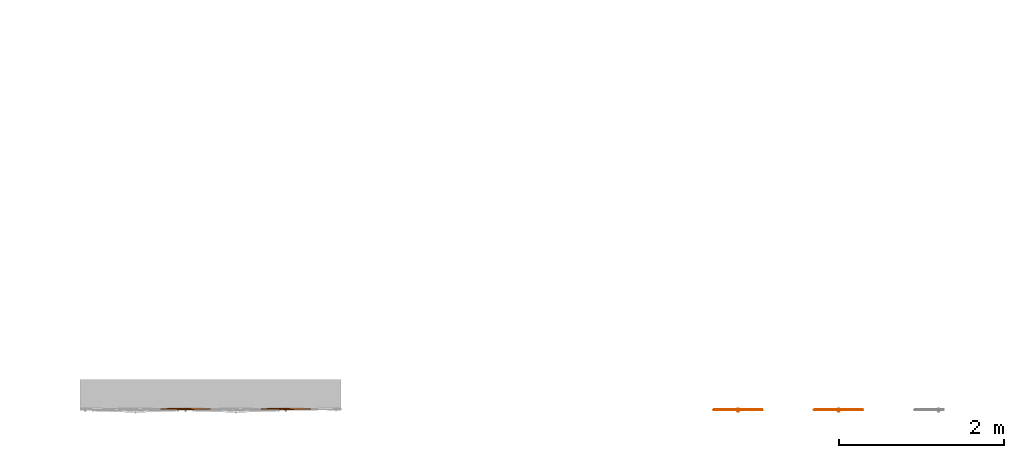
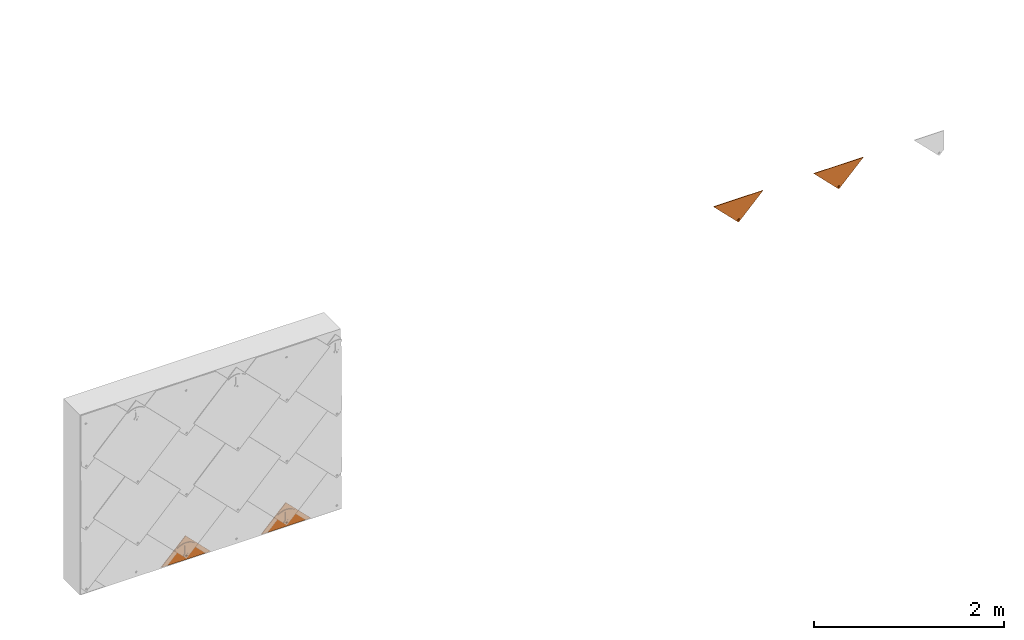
# One storey, part 111 of 151: 4 proxies.
"""IFC2X3 building model written with IfcOpenShell, lengths in millimetres."""

from ifc_helpers import new_model, entity, si_unit, converted_unit, derived_unit, direction, frame, origin, place, context, subcontext, project, spatial, faceted_brep, source, transform, mapped, material, material_list, type_object, type_shapes, element, save


model = new_model("IFC2X3")

# Units and contexts
model_context = context("Model", 3, precision=0.01, world=origin(), true_north=direction((6.12303176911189e-17, 1.0)))
body_context = subcontext(model_context, "Body", "Model", "MODEL_VIEW")
ifc_project = project(units=[si_unit("LENGTHUNIT", "METRE", prefix="MILLI"), si_unit("AREAUNIT", "SQUARE_METRE"), si_unit("VOLUMEUNIT", "CUBIC_METRE"), converted_unit("PLANEANGLEUNIT", "DEGREE", entity("IfcRatioMeasure", 0.0174532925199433), si_unit("PLANEANGLEUNIT", "RADIAN"), dimensions=[0, 0, 0, 0, 0, 0, 0]), si_unit("MASSUNIT", "GRAM", prefix="KILO"), derived_unit("MASSDENSITYUNIT", [(si_unit("MASSUNIT", "GRAM", prefix="KILO"), 1), (si_unit("LENGTHUNIT", "METRE"), -3)]), si_unit("TIMEUNIT", "SECOND"), si_unit("FREQUENCYUNIT", "HERTZ"), si_unit("THERMODYNAMICTEMPERATUREUNIT", "DEGREE_CELSIUS"), derived_unit("THERMALTRANSMITTANCEUNIT", [(si_unit("MASSUNIT", "GRAM", prefix="KILO"), 1), (si_unit("THERMODYNAMICTEMPERATUREUNIT", "KELVIN"), -1), (si_unit("TIMEUNIT", "SECOND"), -3)]), derived_unit("VOLUMETRICFLOWRATEUNIT", [(si_unit("LENGTHUNIT", "METRE"), 3), (si_unit("TIMEUNIT", "SECOND"), -1)]), si_unit("ELECTRICCURRENTUNIT", "AMPERE"), si_unit("ELECTRICVOLTAGEUNIT", "VOLT"), si_unit("POWERUNIT", "WATT"), si_unit("FORCEUNIT", "NEWTON", prefix="KILO"), si_unit("ILLUMINANCEUNIT", "LUX"), si_unit("LUMINOUSFLUXUNIT", "LUMEN"), si_unit("LUMINOUSINTENSITYUNIT", "CANDELA"), derived_unit("USERDEFINED", [(si_unit("MASSUNIT", "GRAM", prefix="KILO"), -1), (si_unit("LENGTHUNIT", "METRE"), -2), (si_unit("TIMEUNIT", "SECOND"), 3), (si_unit("LUMINOUSFLUXUNIT", "LUMEN"), 1)]), derived_unit("LINEARVELOCITYUNIT", [(si_unit("LENGTHUNIT", "METRE"), 1), (si_unit("TIMEUNIT", "SECOND"), -1)]), si_unit("PRESSUREUNIT", "PASCAL"), derived_unit("USERDEFINED", [(si_unit("LENGTHUNIT", "METRE"), -2), (si_unit("MASSUNIT", "GRAM", prefix="KILO"), 1), (si_unit("TIMEUNIT", "SECOND"), -2)])], contexts=[model_context])

# Site, building, storey
site_placement = place(None, origin())
site = spatial("IfcSite", under=ifc_project, at=site_placement, Name="Default", CompositionType="ELEMENT")
building_placement = place(site_placement, origin())
building = spatial("IfcBuilding", under=site, at=building_placement, CompositionType="ELEMENT")
storey_placement = place(building_placement, origin())
storey = spatial("IfcBuildingStorey", under=building, at=storey_placement, Name="Level 1", CompositionType="ELEMENT", Elevation=0.0)

# Proxies
ifc_material_1 = material(Name="Rubber - Sunstyle - Black")
ifc_material_2 = material(Name="Glass - Sunstyle - Tainted Terracotta")
ifc_material_list_1 = material_list([ifc_material_1, ifc_material_2])
ifc_material_list_2 = material_list([ifc_material_1, ifc_material_2])
building_element_proxy_type_1 = type_object("IfcBuildingElementProxyType", Name="Shingle Top Small - Terracotta", PredefinedType="NOTDEFINED", material=ifc_material_list_2)
shared_shape_1 = source(origin(), body_context, "Body", "Brep", [
    faceted_brep([(300.675008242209, 41.77298489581, 1.59527223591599), (294.900805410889, 38.4397147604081, 1.65109621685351), (294.900805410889, 38.8080238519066, 23.6429655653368), (300.675008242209, 42.1412939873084, 23.5871415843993), (294.900805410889, 31.7731744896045, 1.76274417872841), (294.900805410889, 32.1414835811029, 23.7546135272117), (300.675008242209, 28.4399043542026, 1.81856815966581), (300.675008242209, 28.808213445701, 23.8104375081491), (306.44921107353, 31.7731744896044, 1.7627441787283), (306.44921107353, 32.1414835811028, 23.7546135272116), (306.44921107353, 38.4397147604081, 1.65109621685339), (306.44921107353, 38.8080238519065, 23.6429655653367), (292.071304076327, 26.8722558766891, 23.8428599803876), (300.675008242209, 23.3089846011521, 23.9025359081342), (288.507533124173, 35.4747537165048, 23.6987895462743), (292.071304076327, 44.0772515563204, 23.5547191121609), (300.675008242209, 47.6405228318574, 23.4950431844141), (309.278712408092, 44.0772515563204, 23.5547191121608), (312.842483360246, 35.4747537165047, 23.6987895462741), (309.278712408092, 26.872255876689, 23.8428599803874), (289.350763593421, 37.7698308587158, 26.0116314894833), (290.91853368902, 35.5457686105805, 27.9391141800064), (300.67500824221, 42.8588438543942, 28.5718145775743), (300.67500824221, 44.0993414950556, 27.9914679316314), (300.675008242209, 46.2568923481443, 26.98209285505), (300.675008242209, 23.8650286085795, 25.1775938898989), (300.675008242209, 24.8086052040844, 27.3412982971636), (300.675008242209, 28.2579809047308, 28.8163427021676), (300.675008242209, 47.1274867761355, 24.7880055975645), (294.35176254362, 31.9081966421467, 28.7552106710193), (294.35176254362, 39.2086281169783, 28.6329466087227), (311.999252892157, 33.2584106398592, 26.0871865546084), (310.523888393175, 34.4713621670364, 27.8602460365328), (306.998253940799, 39.2086281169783, 28.6329466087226), (306.998253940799, 31.9081966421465, 28.7552106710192), (294.35176254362, 32.0422251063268, 36.7580988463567), (300.67500824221, 28.3920093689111, 36.8192308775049), (300.67500824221, 35.6924408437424, 36.6969668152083), (294.35176254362, 39.342656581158, 36.6358347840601), (306.998253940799, 32.0422251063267, 36.7580988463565), (306.998253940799, 39.342656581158, 36.6358347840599), (300.67500824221, 42.9928723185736, 36.5747027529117), (300.675008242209, 35.1064446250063, 1.7069201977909)], [[[0, 1, 2, 3]], [[1, 4, 5, 2]], [[4, 6, 7, 5]], [[6, 8, 9, 7]], [[8, 10, 11, 9]], [[10, 0, 3, 11]], [[12, 7, 13]], [[7, 12, 5]], [[14, 5, 12]], [[5, 14, 2]], [[15, 2, 14]], [[3, 2, 15]], [[15, 16, 3]], [[16, 17, 3]], [[11, 3, 17]], [[11, 17, 18]], [[9, 11, 18]], [[18, 19, 9]], [[7, 9, 19]], [[19, 13, 7]], [[20, 14, 12]], [[21, 22, 23, 24]], [[24, 20, 21]], [[25, 20, 12]], [[26, 27, 21]], [[15, 14, 20]], [[12, 13, 25]], [[20, 28, 15]], [[28, 20, 24]], [[21, 27, 29]], [[21, 29, 30]], [[26, 21, 20]], [[20, 25, 26]], [[15, 28, 16]], [[21, 30, 22]], [[31, 18, 17]], [[28, 31, 17]], [[32, 27, 26]], [[26, 31, 32]], [[26, 25, 31]], [[25, 19, 31]], [[17, 16, 28]], [[31, 19, 18]], [[24, 31, 28]], [[33, 34, 32]], [[23, 22, 33]], [[24, 32, 31]], [[27, 32, 34]], [[32, 23, 33]], [[19, 25, 13]], [[32, 24, 23]], [[35, 36, 37]], [[37, 38, 35]], [[36, 39, 37]], [[40, 37, 39]], [[37, 40, 41]], [[37, 41, 38]], [[42, 6, 4]], [[4, 1, 42]], [[1, 0, 42]], [[42, 8, 6]], [[0, 10, 42]], [[8, 42, 10]], [[22, 30, 38, 41]], [[30, 29, 35, 38]], [[29, 27, 36, 35]], [[27, 34, 39, 36]], [[34, 33, 40, 39]], [[33, 22, 41, 40]]]),
    faceted_brep([(601.350661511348, 300.716609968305, 19.1616152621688), (307.603211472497, 39.4797476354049, 23.5366826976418), (308.402414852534, 37.5505705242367, 23.5689916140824), (306.331862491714, 41.1363695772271, 23.5089384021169), (308.675008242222, 35.4803084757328, 23.6036633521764), (304.675008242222, 42.4075403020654, 23.4876494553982), (302.745560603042, 43.206631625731, 23.4742666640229), (300.675008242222, 43.4791867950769, 23.4697020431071), (308.402414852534, 33.4100464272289, 23.6383350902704), (300.675330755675, 0.125588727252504, 24.1957669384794), (0.0, 300.716609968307, 19.1616152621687), (298.604455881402, 43.2066316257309, 23.4742666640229), (296.675008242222, 42.4075403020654, 23.4876494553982), (295.018153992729, 41.136369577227, 23.5089384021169), (293.746805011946, 39.4797476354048, 23.5366826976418), (292.947601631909, 37.5505705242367, 23.5689916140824), (292.675008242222, 35.4803084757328, 23.6036633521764), (292.947601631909, 33.4100464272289, 23.6383350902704), (293.746805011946, 31.4808693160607, 23.6706440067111), (307.603211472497, 31.4808693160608, 23.6706440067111), (306.331862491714, 29.8242473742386, 23.698388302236), (304.675008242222, 28.5530766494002, 23.7196772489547), (302.745560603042, 27.7539853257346, 23.73306004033), (300.675008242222, 27.4814301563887, 23.7376246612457), (298.604455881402, 27.7539853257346, 23.73306004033), (296.675008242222, 28.5530766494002, 23.7196772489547), (295.018153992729, 29.8242473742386, 23.698388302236), (0.0, 300.591021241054, 11.6626668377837), (295.018153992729, 41.0107808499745, 16.0099899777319), (293.746805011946, 39.3541589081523, 16.0377342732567), (296.675008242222, 42.2819515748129, 15.9887010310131), (292.947601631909, 37.4249817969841, 16.0700431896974), (298.604455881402, 43.0810428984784, 15.9753182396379), (300.675008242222, 43.3535980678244, 15.9707536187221), (601.350661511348, 300.591021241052, 11.6626668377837), (292.675008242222, 35.3547197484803, 16.1047149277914), (292.947601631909, 33.2844576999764, 16.1393866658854), (300.675330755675, 0.0, 16.6968185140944), (302.745560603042, 43.0810428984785, 15.9753182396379), (304.675008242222, 42.2819515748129, 15.9887010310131), (306.331862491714, 41.0107808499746, 16.0099899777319), (307.603211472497, 39.3541589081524, 16.0377342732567), (308.402414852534, 37.4249817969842, 16.0700431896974), (308.675008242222, 35.3547197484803, 16.1047149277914), (308.402414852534, 33.2844576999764, 16.1393866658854), (307.603211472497, 31.3552805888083, 16.171695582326), (293.746805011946, 31.3552805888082, 16.171695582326), (295.018153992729, 29.6986586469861, 16.1994398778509), (296.675008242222, 28.4274879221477, 16.2207288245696), (298.604455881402, 27.6283965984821, 16.2341116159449), (300.675008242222, 27.3558414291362, 16.2386762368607), (302.745560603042, 27.6283965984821, 16.2341116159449), (304.675008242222, 28.4274879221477, 16.2207288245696), (306.331862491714, 29.6986586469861, 16.1994398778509)], [[[0, 1, 2]], [[1, 0, 3]], [[0, 2, 4]], [[5, 3, 0]], [[6, 5, 0]], [[0, 7, 6]], [[4, 8, 0]], [[8, 9, 0]], [[7, 0, 10]], [[11, 7, 10]], [[12, 11, 10]], [[10, 13, 12]], [[13, 10, 14]], [[15, 14, 10]], [[10, 16, 15]], [[17, 16, 10]], [[10, 9, 17]], [[17, 9, 18]], [[8, 19, 9]], [[20, 9, 19]], [[20, 21, 9]], [[22, 9, 21]], [[23, 9, 22]], [[23, 24, 9]], [[24, 25, 9]], [[25, 26, 9]], [[9, 26, 18]], [[27, 28, 29]], [[28, 27, 30]], [[27, 29, 31]], [[32, 30, 27]], [[33, 32, 27]], [[27, 34, 33]], [[31, 35, 27]], [[35, 36, 27]], [[27, 36, 37]], [[38, 33, 34]], [[39, 38, 34]], [[40, 39, 34]], [[34, 41, 40]], [[41, 34, 42]], [[43, 42, 34]], [[34, 44, 43]], [[37, 44, 34]], [[45, 44, 37]], [[37, 36, 46]], [[37, 46, 47]], [[47, 48, 37]], [[48, 49, 37]], [[50, 37, 49]], [[50, 51, 37]], [[37, 51, 52]], [[52, 53, 37]], [[45, 37, 53]], [[9, 10, 27, 37]], [[0, 9, 37, 34]], [[16, 35, 31, 15]], [[15, 31, 29, 14]], [[12, 13, 28, 30]], [[28, 13, 14, 29]], [[11, 12, 30, 32]], [[11, 32, 33, 7]], [[7, 33, 38, 6]], [[6, 38, 39, 5]], [[1, 3, 40, 41]], [[40, 3, 5, 39]], [[2, 1, 41, 42]], [[2, 42, 43, 4]], [[4, 43, 44, 8]], [[8, 44, 45, 19]], [[21, 20, 53, 52]], [[53, 20, 19, 45]], [[22, 21, 52, 51]], [[22, 51, 50, 23]], [[23, 50, 49, 24]], [[24, 49, 48, 25]], [[18, 26, 47, 46]], [[47, 26, 25, 48]], [[17, 18, 46, 36]], [[17, 36, 35, 16]], [[10, 0, 34, 27]]]),
])
type_shapes(building_element_proxy_type_1, [shared_shape_1])
proxy_1_placement = place(storey_placement, frame((-6698.11889757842, -13194.2847487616, 2233.96885150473), z_axis=(0.0, -1.0, 0.0), x_axis=(1.0, 0.0, 0.0)))
element("IfcBuildingElementProxy", 1, at=proxy_1_placement, inside=storey, type_object=building_element_proxy_type_1, material=ifc_material_list_1, Name="Roofing_Panels_SunStyle_Tile_Shingle-Top-Small:Shingle Top Small - Terracotta", ObjectType="Roofing_Panels_SunStyle_Tile_Shingle-Top-Small:Shingle Top Small - Terracotta", context=body_context, shape_type="MappedRepresentation", body=[
    mapped(shared_shape_1, transform((0.0, 0.0, 0.0), scale=1.0)),
])
ifc_material_list_3 = material_list([ifc_material_1, ifc_material_2])
proxy_2_placement = place(storey_placement, frame((-5481.68539869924, -13194.2847487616, 2233.96885150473), z_axis=(0.0, -1.0, 0.0), x_axis=(1.0, 0.0, 0.0)))
element("IfcBuildingElementProxy", 2, at=proxy_2_placement, inside=storey, type_object=building_element_proxy_type_1, material=ifc_material_list_3, Name="Roofing_Panels_SunStyle_Tile_Shingle-Top-Small:Shingle Top Small - Terracotta", ObjectType="Roofing_Panels_SunStyle_Tile_Shingle-Top-Small:Shingle Top Small - Terracotta", context=body_context, shape_type="MappedRepresentation", body=[
    mapped(shared_shape_1, transform((0.0, 0.0, 0.0), scale=1.0)),
])
ifc_material_list_4 = material_list([ifc_material_1, ifc_material_2])
ifc_material_list_5 = material_list([ifc_material_1, ifc_material_2])
building_element_proxy_type_2 = type_object("IfcBuildingElementProxyType", Name="Shingle Bottom Small - Terracotta", PredefinedType="NOTDEFINED", material=ifc_material_list_5)
shared_shape_2 = source(origin(), body_context, "Body", "Brep", [
    faceted_brep([(302.08842791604, 44.9093317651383, 22.0558382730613), (302.08842791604, 49.408700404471, 21.980485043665), (293.484723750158, 48.4726030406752, 21.9961623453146), (310.692132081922, 48.4726030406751, 21.9961623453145), (308.728656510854, 53.2419006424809, 21.9162884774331), (314.255903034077, 57.0751008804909, 21.8520919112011), (308.728656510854, 60.9083011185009, 21.7878953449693), (310.692132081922, 65.6775987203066, 21.7080214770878), (302.08842791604, 64.7415013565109, 21.7236987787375), (302.08842791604, 69.2408699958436, 21.6483455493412), (293.484723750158, 65.6775987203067, 21.708021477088), (295.448199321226, 60.908301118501, 21.7878953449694), (289.920952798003, 57.0751008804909, 21.8520919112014), (295.448199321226, 53.2419006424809, 21.9162884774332), (295.448199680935, 60.6403782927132, 5.79013870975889), (302.08842791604, 64.473578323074, 5.72594214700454), (295.448199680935, 52.9739782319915, 5.91853183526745), (302.08842791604, 49.1407782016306, 5.98272839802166), (308.728656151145, 52.9739782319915, 5.91853183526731), (308.728656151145, 60.6403782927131, 5.79013870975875), (293.484723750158, 48.2046804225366, 5.99840570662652), (302.08842791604, 44.6414091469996, 6.05808163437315), (289.920952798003, 56.8071782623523, 5.85433527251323), (293.484723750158, 65.4096761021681, 5.71026483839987), (302.08842791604, 68.972947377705, 5.65058891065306), (310.692132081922, 65.409676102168, 5.71026483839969), (314.255903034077, 56.8071782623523, 5.85433527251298), (310.692132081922, 48.2046804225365, 5.99840570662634)], [[[0, 1, 2]], [[1, 0, 3]], [[3, 4, 1]], [[4, 3, 5]], [[6, 4, 5]], [[5, 7, 6]], [[7, 8, 6]], [[8, 7, 9]], [[8, 9, 10]], [[10, 11, 8]], [[12, 11, 10]], [[2, 13, 12]], [[12, 13, 11]], [[13, 2, 1]], [[8, 11, 14, 15]], [[11, 13, 16, 14]], [[13, 1, 17, 16]], [[1, 4, 18, 17]], [[4, 6, 19, 18]], [[6, 8, 15, 19]], [[20, 17, 21]], [[17, 20, 16]], [[22, 16, 20]], [[14, 16, 22]], [[23, 14, 22]], [[15, 14, 23]], [[23, 24, 15]], [[24, 25, 15]], [[19, 15, 25]], [[19, 25, 26]], [[26, 18, 19]], [[26, 27, 18]], [[17, 18, 27]], [[27, 21, 17]], [[24, 23, 10, 9]], [[10, 23, 22, 12]], [[20, 21, 0, 2]], [[20, 2, 12, 22]], [[21, 27, 3, 0]], [[3, 27, 26, 5]], [[25, 24, 9, 7]], [[25, 7, 5, 26]]]),
    faceted_brep([(587.35835892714, 0.0, 12.5593198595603), (595.843045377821, 8.4846864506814, 12.4172224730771), (595.843045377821, 8.50980419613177, 13.9170121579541), (587.35835892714, 0.0251177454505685, 14.0591095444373), (302.088750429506, 285.189618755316, 7.7831033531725), (16.8191419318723, 0.0, 12.5593198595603), (8.33445548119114, 8.48468645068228, 12.4172224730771), (302.088750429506, 302.156612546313, 7.49894842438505), (302.088750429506, 302.181730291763, 8.9987381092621), (8.33445548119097, 8.50980419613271, 13.9170121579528), (16.8191419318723, 0.0251177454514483, 14.0591095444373), (302.088750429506, 285.214736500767, 9.28289303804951)], [[[0, 1, 2, 3]], [[1, 0, 4, 5, 6, 7]], [[2, 1, 7, 8]], [[3, 2, 8, 9, 10, 11]], [[0, 3, 11, 4]], [[5, 10, 9, 6]], [[8, 7, 6, 9]], [[4, 11, 10, 5]]]),
    faceted_brep([(302.088750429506, 302.156612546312, 7.49894842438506), (305.194256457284, 68.3255429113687, 11.4150370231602), (308.088427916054, 67.1269059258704, 11.4351112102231), (302.088427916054, 68.7343756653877, 11.4081900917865), (310.573709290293, 65.2201498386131, 11.4670446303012), (298.982599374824, 68.3255429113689, 11.4150370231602), (296.088427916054, 67.1269059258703, 11.4351112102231), (293.603146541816, 65.2201498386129, 11.4670446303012), (312.480732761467, 62.7352169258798, 11.5086610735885), (604.177500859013, 0.152567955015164, 12.5567647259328), (291.696123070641, 62.7352169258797, 11.5086610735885), (0.0, 0.152567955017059, 12.5567647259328), (290.497318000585, 59.8414512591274, 11.5571244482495), (290.088427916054, 56.7360581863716, 11.6091320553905), (290.497318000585, 53.6306651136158, 11.6611396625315), (291.696123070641, 50.7368994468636, 11.7096030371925), (293.603146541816, 48.2519665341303, 11.7512194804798), (296.088427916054, 46.3452104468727, 11.7831529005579), (298.982599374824, 45.1465734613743, 11.8032270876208), (302.088427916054, 44.7377407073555, 11.8100740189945), (313.679537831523, 59.8414512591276, 11.5571244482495), (314.088427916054, 56.7360581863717, 11.6091320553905), (313.679537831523, 53.6306651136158, 11.6611396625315), (312.480732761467, 50.7368994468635, 11.7096030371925), (310.573709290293, 48.2519665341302, 11.7512194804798), (308.088427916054, 46.3452104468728, 11.7831529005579), (305.194256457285, 45.1465734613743, 11.8032270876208), (0.0, 0.0269792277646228, 5.0578163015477), (290.088427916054, 56.6104694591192, 4.11018363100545), (290.497318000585, 53.5050763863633, 4.16219123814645), (290.497318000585, 59.7158625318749, 4.05817602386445), (291.696123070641, 50.6113107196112, 4.21065461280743), (291.696123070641, 62.6096281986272, 4.00971264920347), (302.088750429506, 302.031023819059, 0.0), (293.603146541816, 48.1263778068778, 4.25227105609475), (296.088427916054, 46.2196217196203, 4.28420447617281), (298.982599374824, 45.0209847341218, 4.30427866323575), (302.088427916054, 44.612151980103, 4.31112559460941), (604.177500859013, 0.0269792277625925, 5.05781630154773), (293.603146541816, 65.0945611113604, 3.96809620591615), (296.088427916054, 67.0013171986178, 3.93616278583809), (298.982599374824, 68.1999541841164, 3.91608859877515), (302.088427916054, 68.6087869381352, 3.90924166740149), (305.194256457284, 68.1999541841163, 3.91608859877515), (308.088427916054, 67.0013171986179, 3.93616278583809), (310.573709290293, 65.0945611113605, 3.96809620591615), (312.480732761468, 62.6096281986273, 4.00971264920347), (305.194256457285, 45.0209847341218, 4.30427866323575), (308.088427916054, 46.2196217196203, 4.28420447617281), (313.679537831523, 59.7158625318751, 4.05817602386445), (314.088427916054, 56.6104694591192, 4.11018363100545), (313.679537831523, 53.5050763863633, 4.16219123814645), (312.480732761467, 50.611310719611, 4.21065461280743), (310.573709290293, 48.1263778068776, 4.25227105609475)], [[[0, 1, 2]], [[1, 0, 3]], [[0, 2, 4]], [[5, 3, 0]], [[6, 5, 0]], [[0, 7, 6]], [[8, 0, 4]], [[0, 8, 9]], [[7, 0, 10]], [[0, 11, 10]], [[12, 10, 11]], [[11, 13, 12]], [[13, 11, 14]], [[15, 14, 11]], [[11, 16, 15]], [[17, 16, 11]], [[17, 11, 18]], [[19, 18, 11]], [[19, 11, 9]], [[9, 8, 20]], [[20, 21, 9]], [[21, 22, 9]], [[22, 23, 9]], [[9, 23, 24]], [[24, 25, 9]], [[25, 26, 9]], [[9, 26, 19]], [[27, 28, 29]], [[28, 27, 30]], [[27, 29, 31]], [[32, 30, 27]], [[32, 27, 33]], [[31, 34, 27]], [[34, 35, 27]], [[35, 36, 27]], [[36, 37, 27]], [[27, 37, 38]], [[33, 39, 32]], [[40, 39, 33]], [[41, 40, 33]], [[42, 41, 33]], [[33, 43, 42]], [[43, 33, 44]], [[45, 44, 33]], [[33, 46, 45]], [[46, 33, 38]], [[38, 37, 47]], [[47, 48, 38]], [[49, 46, 38]], [[38, 50, 49]], [[50, 38, 51]], [[52, 51, 38]], [[53, 52, 38]], [[53, 38, 48]], [[11, 0, 33, 27]], [[0, 9, 38, 33]], [[13, 28, 30, 12]], [[12, 30, 32, 10]], [[6, 7, 39, 40]], [[39, 7, 10, 32]], [[5, 6, 40, 41]], [[5, 41, 42, 3]], [[3, 42, 43, 1]], [[1, 43, 44, 2]], [[8, 4, 45, 46]], [[45, 4, 2, 44]], [[20, 8, 46, 49]], [[20, 49, 50, 21]], [[21, 50, 51, 22]], [[22, 51, 52, 23]], [[25, 24, 53, 48]], [[53, 24, 23, 52]], [[26, 25, 48, 47]], [[26, 47, 37, 19]], [[19, 37, 36, 18]], [[18, 36, 35, 17]], [[15, 16, 34, 31]], [[34, 16, 17, 35]], [[14, 15, 31, 29]], [[14, 29, 28, 13]], [[9, 11, 27, 38]]]),
    faceted_brep([(190.819384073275, 138.646056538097, 12.7376939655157), (217.144031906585, 164.967013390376, 12.2968834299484), (200.060856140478, 182.04779392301, 12.0108228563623), (193.80845410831, 176.686146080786, 12.100617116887), (187.837458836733, 171.012871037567, 12.1956303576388), (173.141714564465, 156.321247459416, 12.4416784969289), (431.035141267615, 156.321247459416, 12.4416784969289), (416.339396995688, 171.012871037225, 12.1956303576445), (410.36840172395, 176.686146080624, 12.1006171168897), (404.115999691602, 182.047793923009, 12.0108228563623), (387.031626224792, 164.968210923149, 12.2968633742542), (413.357471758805, 138.646056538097, 12.7376939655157), (296.088427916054, 67.294357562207, 21.4337091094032), (288.788427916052, 83.1076295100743, 21.1688761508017), (283.384321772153, 79.569581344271, 21.2281296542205), (293.603146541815, 65.3876014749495, 21.4656425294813), (298.982599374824, 68.4929945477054, 21.4136349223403), (302.088427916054, 68.9018273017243, 21.4067879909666), (315.388427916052, 83.107629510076, 21.1688761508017), (305.194256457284, 68.4929945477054, 21.4136349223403), (308.088427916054, 67.2943575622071, 21.4337091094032), (320.792534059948, 79.5695813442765, 21.2281296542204), (310.573709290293, 65.3876014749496, 21.4656425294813), (325.293078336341, 74.9365758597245, 21.3057209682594), (312.480732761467, 62.9026685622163, 21.5072589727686), (328.672647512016, 69.4324252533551, 21.3979017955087), (313.679537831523, 60.0089028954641, 21.5557223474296), (330.767980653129, 63.323025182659, 21.500219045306), (314.088427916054, 56.9035098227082, 21.6077299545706), (331.477855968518, 56.9035098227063, 21.6077299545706), (313.679537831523, 53.7981167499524, 21.6597375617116), (312.480732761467, 50.9043510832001, 21.7082009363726), (310.573709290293, 48.4194181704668, 21.7498173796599), (302.08842791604, 27.5182024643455, 22.0998607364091), (308.088427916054, 46.5126620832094, 21.7817507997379), (305.194256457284, 45.314025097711, 21.8018249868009), (302.088427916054, 44.9051923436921, 21.8086719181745), (298.982599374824, 45.314025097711, 21.8018249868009), (296.088427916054, 46.5126620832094, 21.7817507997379), (293.603146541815, 48.4194181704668, 21.7498173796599), (272.69899986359, 56.903509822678, 21.6077299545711), (291.696123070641, 50.9043510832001, 21.7082009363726), (290.497318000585, 53.7981167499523, 21.6597375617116), (290.088427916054, 56.9035098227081, 21.6077299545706), (273.408875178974, 63.3230251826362, 21.5002190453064), (290.497318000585, 60.008902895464, 21.5557223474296), (275.504208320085, 69.4324252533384, 21.397901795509), (291.696123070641, 62.9026685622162, 21.5072589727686), (278.883777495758, 74.9365758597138, 21.3057209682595), (288.788427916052, 192.984512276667, 19.3287117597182), (315.388427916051, 192.984512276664, 19.3287117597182), (302.088427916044, 218.456125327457, 18.9021256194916), (338.579268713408, 214.282159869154, 18.9720291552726), (340.858170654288, 188.169632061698, 19.4093490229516), (373.184513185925, 201.975945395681, 19.1781276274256), (365.012761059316, 178.765998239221, 19.5668364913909), (404.115999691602, 182.173382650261, 19.5097712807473), (387.032823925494, 165.092602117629, 19.7958318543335), (265.59758711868, 214.28215986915, 18.9720291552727), (263.318685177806, 188.169632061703, 19.4093490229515), (230.992342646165, 201.975945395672, 19.1781276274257), (239.164094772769, 178.765998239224, 19.5668364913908), (200.06085614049, 182.173382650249, 19.5097712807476), (217.144031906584, 165.092602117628, 19.7958318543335), (302.08842791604, 27.3507508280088, 12.1012628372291), (302.088427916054, 44.7377407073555, 11.8100740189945), (305.194256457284, 45.1465734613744, 11.8032270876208), (298.982599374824, 45.1465734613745, 11.8032270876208), (308.088427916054, 46.3452104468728, 11.7831529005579), (310.573709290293, 48.2519665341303, 11.7512194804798), (331.477855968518, 56.7360581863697, 11.6091320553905), (296.088427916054, 46.3452104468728, 11.7831529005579), (293.603146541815, 48.2519665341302, 11.7512194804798), (272.69899986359, 56.7360581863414, 11.609132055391), (291.696123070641, 50.7368994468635, 11.7096030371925), (290.497318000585, 53.6306651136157, 11.6611396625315), (290.088427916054, 56.7360581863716, 11.6091320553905), (273.408875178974, 63.1555735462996, 11.5016211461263), (290.497318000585, 59.8414512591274, 11.5571244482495), (275.504208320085, 69.2649736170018, 11.3993038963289), (291.696123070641, 62.7352169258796, 11.5086610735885), (278.883777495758, 74.7691242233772, 11.3071230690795), (293.603146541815, 65.2201498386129, 11.4670446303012), (283.384321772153, 79.4021297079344, 11.2295317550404), (296.088427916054, 67.1269059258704, 11.4351112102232), (288.788427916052, 82.9401778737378, 11.1702782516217), (298.982599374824, 68.3255429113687, 11.4150370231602), (302.088427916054, 68.7343756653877, 11.4081900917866), (315.388427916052, 82.9401778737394, 11.1702782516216), (288.788427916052, 192.81706064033, 9.33011386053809), (315.388427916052, 192.817060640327, 9.33011386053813), (302.088427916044, 218.28867369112, 8.90352772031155), (265.59758711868, 214.114708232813, 8.97343125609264), (263.318685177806, 188.002180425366, 9.41075112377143), (230.992342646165, 201.808493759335, 9.17952972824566), (239.164094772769, 178.598546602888, 9.56823859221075), (200.06085614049, 182.005931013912, 9.51117338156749), (217.145229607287, 164.926348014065, 9.79721389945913), (193.80845410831, 176.644283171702, 9.60096764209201), (187.837458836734, 170.971008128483, 9.69598088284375), (190.819384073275, 138.604193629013, 10.2380444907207), (173.141714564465, 156.279384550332, 9.94202902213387), (338.579268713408, 214.114708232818, 8.97343125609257), (340.858170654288, 188.002180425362, 9.41075112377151), (373.184513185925, 201.808493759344, 9.17952972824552), (365.012761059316, 178.598546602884, 9.5682385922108), (404.115999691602, 182.005931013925, 9.51117338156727), (387.032823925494, 164.925150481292, 9.79723395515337), (410.36840172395, 176.64428317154, 9.60096764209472), (416.339396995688, 170.971008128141, 9.69598088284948), (413.357471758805, 138.604193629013, 10.2380444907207), (431.035141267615, 156.279384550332, 9.94202902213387), (305.194256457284, 68.3255429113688, 11.4150370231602), (308.088427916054, 67.1269059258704, 11.4351112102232), (320.792534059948, 79.4021297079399, 11.2295317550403), (310.573709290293, 65.220149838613, 11.4670446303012), (325.293078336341, 74.7691242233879, 11.3071230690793), (312.480732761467, 62.7352169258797, 11.5086610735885), (328.672647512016, 69.2649736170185, 11.3993038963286), (313.679537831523, 59.8414512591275, 11.5571244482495), (330.767980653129, 63.1555735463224, 11.5016211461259), (314.088427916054, 56.7360581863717, 11.6091320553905), (312.480732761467, 50.7368994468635, 11.7096030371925), (313.679537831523, 53.6306651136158, 11.6611396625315)], [[[0, 1, 2, 3, 4, 5]], [[6, 7, 8, 9, 10, 11]], [[12, 13, 14]], [[12, 14, 15]], [[16, 13, 12]], [[17, 13, 16]], [[18, 13, 17]], [[17, 19, 18]], [[19, 20, 18]], [[20, 21, 18]], [[21, 20, 22]], [[21, 22, 23]], [[24, 23, 22]], [[23, 24, 25]], [[24, 26, 25]], [[27, 25, 26]], [[26, 28, 27]], [[29, 27, 28]], [[28, 30, 29]], [[30, 31, 29]], [[29, 31, 32]], [[32, 33, 29]], [[32, 34, 33]], [[35, 33, 34]], [[36, 33, 35]], [[33, 36, 37]], [[38, 33, 37]], [[38, 39, 33]], [[40, 33, 39]], [[41, 40, 39]], [[41, 42, 40]], [[42, 43, 40]], [[43, 44, 40]], [[45, 44, 43]], [[45, 46, 44]], [[45, 47, 46]], [[48, 46, 47]], [[48, 47, 15]], [[48, 15, 14]], [[18, 49, 13]], [[50, 49, 18]], [[51, 49, 50]], [[50, 52, 51]], [[50, 53, 52]], [[52, 53, 54]], [[53, 55, 54]], [[56, 54, 55]], [[57, 56, 55]], [[58, 49, 51]], [[49, 58, 59]], [[60, 59, 58]], [[60, 61, 59]], [[61, 60, 62]], [[62, 63, 61]], [[64, 65, 66]], [[65, 64, 67]], [[64, 66, 68]], [[68, 69, 64]], [[64, 69, 70]], [[71, 67, 64]], [[71, 64, 72]], [[72, 64, 73]], [[73, 74, 72]], [[74, 73, 75]], [[75, 73, 76]], [[77, 76, 73]], [[76, 77, 78]], [[78, 77, 79]], [[80, 78, 79]], [[81, 80, 79]], [[82, 80, 81]], [[83, 82, 81]], [[83, 84, 82]], [[85, 84, 83]], [[85, 86, 84]], [[87, 86, 85]], [[88, 87, 85]], [[89, 88, 85]], [[88, 89, 90]], [[89, 91, 90]], [[91, 89, 92]], [[93, 92, 89]], [[92, 93, 94]], [[95, 94, 93]], [[96, 94, 95]], [[95, 97, 96]], [[97, 98, 96]], [[98, 97, 99]], [[97, 100, 99]], [[99, 100, 101]], [[90, 91, 102]], [[103, 90, 102]], [[103, 102, 104]], [[105, 103, 104]], [[106, 105, 104]], [[107, 105, 106]], [[106, 108, 107]], [[109, 107, 108]], [[110, 107, 109]], [[109, 111, 110]], [[112, 87, 88]], [[113, 112, 88]], [[114, 113, 88]], [[115, 113, 114]], [[115, 114, 116]], [[116, 117, 115]], [[117, 116, 118]], [[118, 119, 117]], [[120, 119, 118]], [[121, 120, 70]], [[120, 121, 119]], [[70, 69, 122]], [[122, 123, 70]], [[123, 121, 70]], [[13, 49, 89, 85]], [[14, 13, 85, 83]], [[48, 14, 83, 81]], [[81, 79, 46, 48]], [[44, 46, 79, 77]], [[40, 44, 77, 73]], [[33, 40, 73, 64]], [[0, 5, 101, 100]], [[29, 33, 64, 70]], [[6, 11, 110, 111]], [[27, 29, 70, 120]], [[25, 27, 120, 118]], [[118, 116, 23, 25]], [[21, 23, 116, 114]], [[18, 21, 114, 88]], [[50, 18, 88, 90]], [[9, 106, 104, 54, 56]], [[52, 54, 104, 102]], [[51, 52, 102, 91]], [[58, 51, 91, 92]], [[94, 96, 2, 62, 60]], [[60, 58, 92, 94]], [[43, 76, 78, 45]], [[45, 78, 80, 47]], [[12, 15, 82, 84]], [[80, 82, 15, 47]], [[16, 12, 84, 86]], [[87, 17, 16, 86]], [[19, 112, 113, 20]], [[20, 113, 115, 22]], [[26, 24, 117, 119]], [[115, 117, 24, 22]], [[28, 26, 119, 121]], [[19, 17, 87, 112]], [[28, 121, 123, 30]], [[30, 123, 122, 31]], [[34, 32, 69, 68]], [[122, 69, 32, 31]], [[35, 34, 68, 66]], [[65, 36, 35, 66]], [[37, 67, 71, 38]], [[38, 71, 72, 39]], [[42, 41, 74, 75]], [[72, 74, 41, 39]], [[43, 42, 75, 76]], [[37, 36, 65, 67]], [[7, 6, 111, 109]], [[7, 109, 108, 8]], [[108, 106, 9, 8]], [[11, 10, 107, 110]], [[1, 0, 100, 97]], [[2, 96, 98, 3]], [[98, 99, 4, 3]], [[5, 4, 99, 101]], [[63, 62, 2, 1]], [[56, 57, 10]], [[10, 9, 56]], [[1, 95, 61, 63]], [[1, 97, 95]], [[93, 89, 49, 59]], [[95, 93, 59, 61]], [[90, 103, 53, 50]], [[103, 105, 55, 53]], [[10, 57, 55]], [[107, 10, 105]], [[55, 105, 10]]]),
])
type_shapes(building_element_proxy_type_2, [shared_shape_2])
proxy_3_placement = place(storey_placement, frame((-13393.6122508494, -13190.1373336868, 244.281586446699), z_axis=(0.0, -1.0, 0.0), x_axis=(1.0, 0.0, 0.0)))
element("IfcBuildingElementProxy", 3, at=proxy_3_placement, inside=storey, type_object=building_element_proxy_type_2, material=ifc_material_list_4, Name="Roofing_Panels_SunStyle_Tile_Shingle-Bottom-Small:Shingle Bottom Small - Terracotta", ObjectType="Roofing_Panels_SunStyle_Tile_Shingle-Bottom-Small:Shingle Bottom Small - Terracotta", context=body_context, shape_type="MappedRepresentation", body=[
    mapped(shared_shape_2, transform((0.0, 0.0, 0.0), scale=1.0)),
])
ifc_material_list_6 = material_list([ifc_material_1, ifc_material_2])
proxy_4_placement = place(storey_placement, frame((-12177.1787519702, -13190.1373336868, 244.281586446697), z_axis=(0.0, -1.0, 0.0), x_axis=(1.0, 0.0, 0.0)))
element("IfcBuildingElementProxy", 4, at=proxy_4_placement, inside=storey, type_object=building_element_proxy_type_2, material=ifc_material_list_6, Name="Roofing_Panels_SunStyle_Tile_Shingle-Bottom-Small:Shingle Bottom Small - Terracotta", ObjectType="Roofing_Panels_SunStyle_Tile_Shingle-Bottom-Small:Shingle Bottom Small - Terracotta", context=body_context, shape_type="MappedRepresentation", body=[
    mapped(shared_shape_2, transform((0.0, 0.0, 0.0), scale=1.0)),
])

save(model, "model.ifc")
